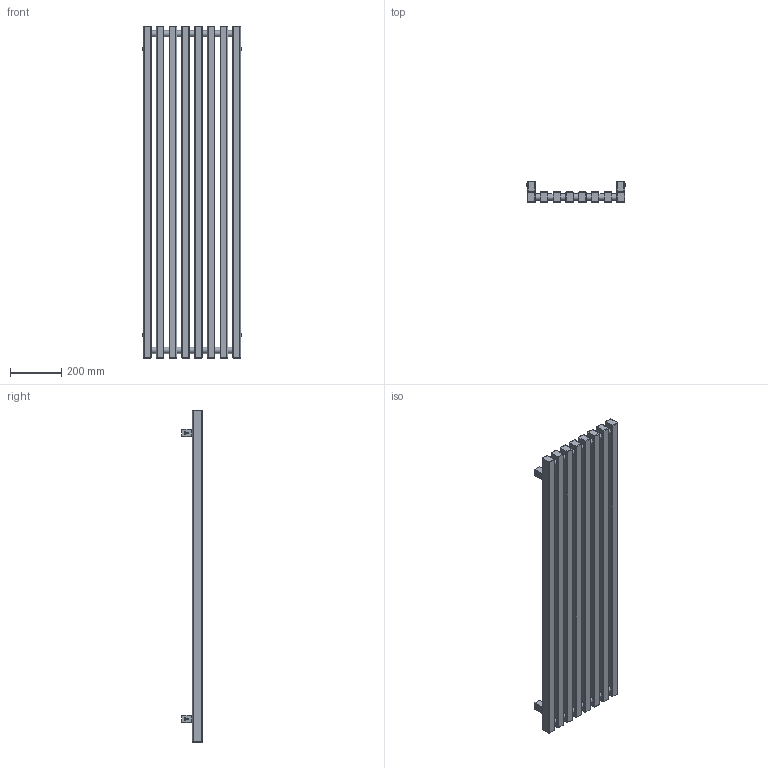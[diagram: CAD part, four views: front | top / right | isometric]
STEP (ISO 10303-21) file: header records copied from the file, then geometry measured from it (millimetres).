
FILE_DESCRIPTION((''),'2;1');
FILE_NAME('Z:\R\G\P\RGP029 - Grzejnik Triga ( ZET)\Work\Inventor\Triga v1.1\Marketing\AutoCad 3D\G-TR-XX-MK-XX-13-48-ZX.stp','2012-07-26T12:54:38',('DawPi'),(''),'Autodesk Inventor 2012','Autodesk Inventor 2012','');
FILE_SCHEMA(('AUTOMOTIVE_DESIGN { 1 0 10303 214 1 1 1 1 }'));
Length unit declared in the file: millimetre
Products named in the file (3): G-TR-XX-MK-XX-13-48-ZX; MMT42
Assembly tree (5 placements, depth 2):
  G-TR-XX-MK-XX-13-48-ZX
    G-TR-XX-MK-XX-13-48-ZX
    MMT42  x4
Bounding box: 386 x 82 x 1300 mm (x, y, z)
Volume: 12672224.9 mm3; surface area: 1460816.2 mm2
Topology: 5 solids, 5 shells, 429 faces, 969 edges, 587 vertices
Faces by surface type: cylinder 169, plane 159, bspline 64, cone 24, torus 13
Full cylindrical faces by diameter (mm): 4.134 x4, 4.509 x4, 10 x4, 11.445 x1, 12 x4, 18.631 x2, 25 x14
Entity records: 12871 total; most frequent: CARTESIAN_POINT 6442, DIRECTION 1426, ORIENTED_EDGE 1212, EDGE_CURVE 606, AXIS2_PLACEMENT_3D 586, VERTEX_POINT 378, EDGE_LOOP 372, CIRCLE 348
